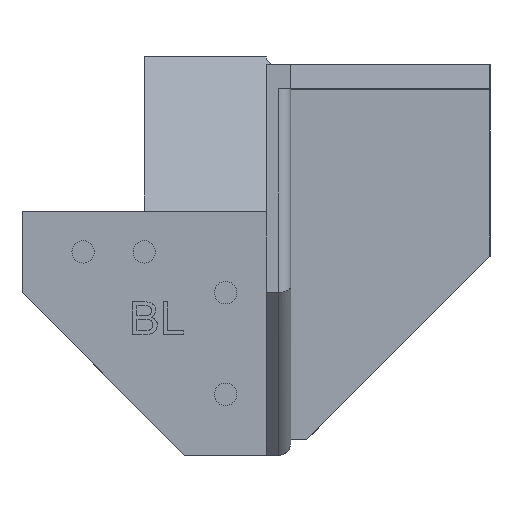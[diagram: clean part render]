
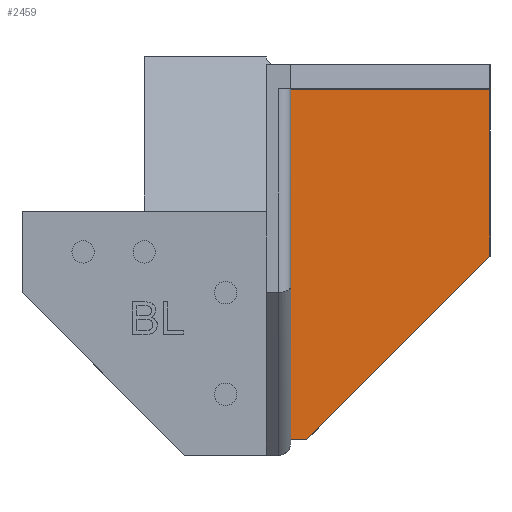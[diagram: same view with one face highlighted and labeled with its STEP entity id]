
A CAD part, top view. The second image highlights one B-rep face of the part: STEP entity #2459.
In plain terms, the highlighted planar face has unit normal (0, 0, 1) as drawn and (1, 0, 0) by its records, which use the part's own axes.
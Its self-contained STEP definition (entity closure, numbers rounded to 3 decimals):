
#133=LINE('',#3301,#367);
#339=LINE('',#4318,#573);
#341=LINE('',#4322,#575);
#348=LINE('',#4336,#582);
#349=LINE('',#4338,#583);
#367=VECTOR('',#2727,10.);
#573=VECTOR('',#3189,10.);
#575=VECTOR('',#3193,10.);
#582=VECTOR('',#3208,10.);
#583=VECTOR('',#3211,10.);
#754=FACE_OUTER_BOUND('',#919,.T.);
#919=EDGE_LOOP('',(#2202,#2203,#2204,#2205,#2206));
#1009=VERTEX_POINT('',#3298);
#1010=VERTEX_POINT('',#3300);
#1212=VERTEX_POINT('',#4315);
#1213=VERTEX_POINT('',#4317);
#1214=VERTEX_POINT('',#4321);
#1243=EDGE_CURVE('',#1010,#1009,#133,.T.);
#1544=EDGE_CURVE('',#1213,#1212,#339,.T.);
#1546=EDGE_CURVE('',#1214,#1213,#341,.T.);
#1554=EDGE_CURVE('',#1010,#1212,#348,.T.);
#1555=EDGE_CURVE('',#1009,#1214,#349,.T.);
#2202=ORIENTED_EDGE('',*,*,#1243,.T.);
#2203=ORIENTED_EDGE('',*,*,#1555,.T.);
#2204=ORIENTED_EDGE('',*,*,#1546,.T.);
#2205=ORIENTED_EDGE('',*,*,#1544,.T.);
#2206=ORIENTED_EDGE('',*,*,#1554,.F.);
#2327=PLANE('',#2647);
#2459=ADVANCED_FACE('',(#754),#2327,.F.);
#2647=AXIS2_PLACEMENT_3D('',#4337,#3209,#3210);
#2727=DIRECTION('',(0.,0.,-1.));
#3189=DIRECTION('',(0.,0.,1.));
#3193=DIRECTION('',(0.,1.,0.));
#3208=DIRECTION('',(0.,1.,0.));
#3209=DIRECTION('center_axis',(-1.,0.,0.));
#3210=DIRECTION('ref_axis',(0.,0.,
1.));
#3211=DIRECTION('',(0.,0.707,-0.707));
#3298=CARTESIAN_POINT('',(-340.5,244.,-340.));
#3300=CARTESIAN_POINT('',(-340.5,244.,-336.));
#3301=CARTESIAN_POINT('',(-340.5,244.,-324.375));
#4315=CARTESIAN_POINT('',(-340.5,330.,-336.));
#4317=CARTESIAN_POINT('',(-340.5,330.,-385.));
#4318=CARTESIAN_POINT('',(-340.5,330.,-385.));
#4321=CARTESIAN_POINT('',(-340.5,289.,-385.));
#4322=CARTESIAN_POINT('',(-340.5,300.,-385.));
#4336=CARTESIAN_POINT('',(-340.5,300.,-336.));
#4337=CARTESIAN_POINT('Origin',(-340.5,300.,-385.));
#4338=CARTESIAN_POINT('',(-340.5,279.5,-375.5));
